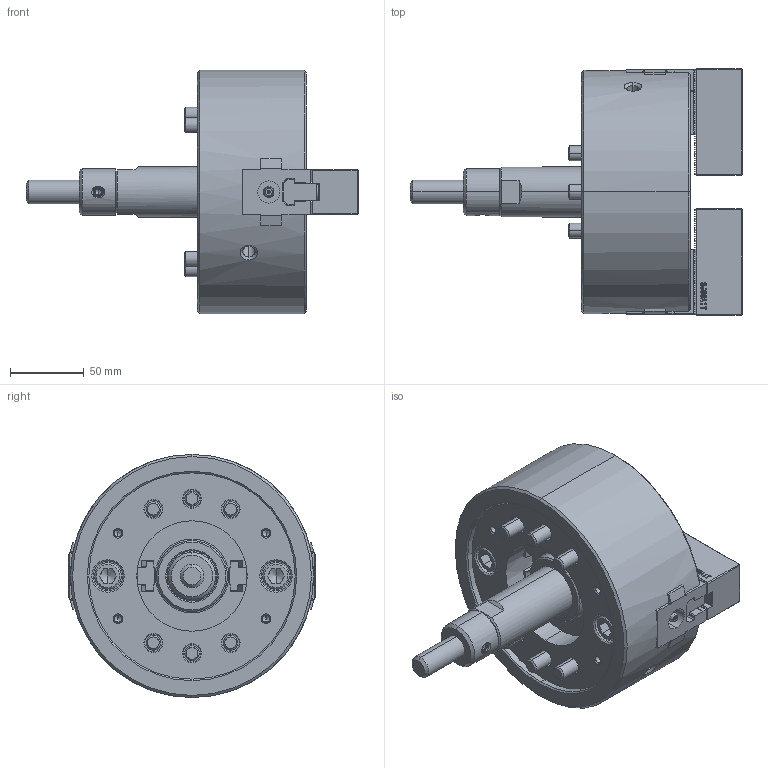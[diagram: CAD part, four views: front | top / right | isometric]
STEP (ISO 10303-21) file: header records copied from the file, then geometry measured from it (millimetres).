
FILE_DESCRIPTION (( 'STEP AP214' ), '1' );
FILE_NAME ('DT1_NLT06_OUTSIDE_VIEW_HUL.STEP', '2026-03-23T00:24:41', ( '' ), ( '' ), 'SwSTEP 2.0', 'SolidWorks 2022', '' );
FILE_SCHEMA (( 'AUTOMOTIVE_DESIGN' ));
Length unit declared in the file: millimetre
Products named in the file (11): DT1_NLT06_SOFTJAW^DT1_NLT06; DT1_NLT06_COVER^DT1_NLT06; DT1_NLT06_TNUT^DT1_NLT06; DT1_NLT06_DRAWSCREW^DT1_NLT06; Copy of P31410^DT1_NLT06; DT1_NLT06_OUTSIDE_VIEW_HUL; DT1_NLT06_DN^DT1_NLT06; DT1_NLT06_M10x30^DT1_NLT06; DT1_NLT06_M10x70^DT1_NLT06; DT1_NLT06_BASE^DT1_NLT06; DT1_NLT06_M5x12^DT1_NLT06
Assembly tree (23 placements, depth 2):
  DT1_NLT06_OUTSIDE_VIEW_HUL
    DT1_NLT06_SOFTJAW^DT1_NLT06  x2
    DT1_NLT06_TNUT^DT1_NLT06  x2
    DT1_NLT06_COVER^DT1_NLT06
    DT1_NLT06_DRAWSCREW^DT1_NLT06
    Copy of P31410^DT1_NLT06
    DT1_NLT06_DN^DT1_NLT06
    DT1_NLT06_BASE^DT1_NLT06
    DT1_NLT06_M10x70^DT1_NLT06  x6
    DT1_NLT06_M10x30^DT1_NLT06  x4
    DT1_NLT06_M5x12^DT1_NLT06  x4
Bounding box: 225.25 x 167.06 x 165 mm (x, y, z)
Volume: 1596570 mm3; surface area: 244983.9 mm2
Topology: 23 solids, 23 shells, 3247 faces, 9031 edges, 5874 vertices
Faces by surface type: plane 1835, cylinder 799, cone 331, bspline 236, torus 42, sphere 4
Entity records: 82304 total; most frequent: CARTESIAN_POINT 24768, ORIENTED_EDGE 12960, DIRECTION 10223, EDGE_CURVE 6480, LINE 4411, VECTOR 4411, VERTEX_POINT 4233, AXIS2_PLACEMENT_3D 2906
